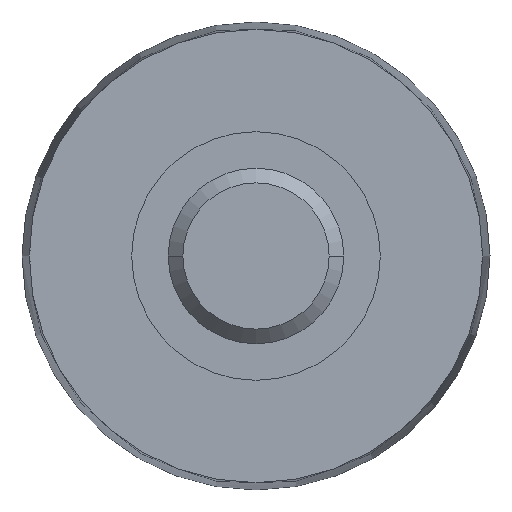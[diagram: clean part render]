
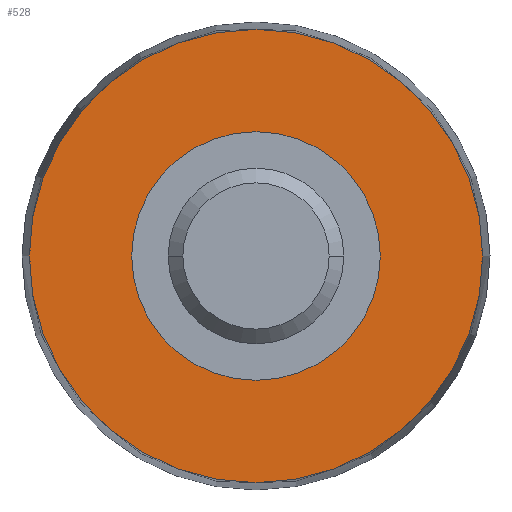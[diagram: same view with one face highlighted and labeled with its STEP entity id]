
A CAD part, left-side view. The second image highlights one B-rep face of the part: STEP entity #528.
In plain terms, the highlighted planar face has unit normal (-1, 0, 0).
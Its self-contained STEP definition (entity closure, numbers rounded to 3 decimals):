
#1 = VERTEX_POINT ( 'NONE', #526 ) ;
#12 = CARTESIAN_POINT ( 'NONE',  ( -70., 15.5, 0. ) ) ;
#45 = FACE_OUTER_BOUND ( 'NONE', #610, .T. ) ;
#87 = CARTESIAN_POINT ( 'NONE',  ( -70., 0., 0. ) ) ;
#101 = VERTEX_POINT ( 'NONE', #224 ) ;
#121 = VERTEX_POINT ( 'NONE', #285 ) ;
#141 = DIRECTION ( 'NONE',  ( 0., 1., 0. ) ) ;
#160 = DIRECTION ( 'NONE',  ( 0., 1., 0. ) ) ;
#192 = DIRECTION ( 'NONE',  ( 1., 0., 0. ) ) ;
#198 = EDGE_CURVE ( 'NONE', #101, #476, #522, .T. ) ;
#208 = EDGE_CURVE ( 'NONE', #1, #121, #494, .T. ) ;
#215 = EDGE_LOOP ( 'NONE', ( #554, #592 ) ) ;
#224 = CARTESIAN_POINT ( 'NONE',  ( -70., -15.5, 0. ) ) ;
#239 = DIRECTION ( 'NONE',  ( 1., 0., 0. ) ) ;
#251 = DIRECTION ( 'NONE',  ( 1., 0., 0. ) ) ;
#259 = AXIS2_PLACEMENT_3D ( 'NONE', #87, #239, #497 ) ;
#284 = EDGE_CURVE ( 'NONE', #476, #101, #316, .T. ) ;
#285 = CARTESIAN_POINT ( 'NONE',  ( -70., 8.5, 0. ) ) ;
#287 = CIRCLE ( 'NONE', #597, 8.5 ) ;
#315 = CARTESIAN_POINT ( 'NONE',  ( -70., 0., 0. ) ) ;
#316 = CIRCLE ( 'NONE', #356, 15.5 ) ;
#355 = DIRECTION ( 'NONE',  ( 1., 0., 0. ) ) ;
#356 = AXIS2_PLACEMENT_3D ( 'NONE', #659, #251, #566 ) ;
#378 = FACE_BOUND ( 'NONE', #215, .T. ) ;
#399 = AXIS2_PLACEMENT_3D ( 'NONE', #574, #466, #616 ) ;
#413 = PLANE ( 'NONE',  #399 ) ;
#451 = CARTESIAN_POINT ( 'NONE',  ( -70., 0., 0. ) ) ;
#466 = DIRECTION ( 'NONE',  ( -1., 0., 0. ) ) ;
#476 = VERTEX_POINT ( 'NONE', #12 ) ;
#494 = CIRCLE ( 'NONE', #609, 8.5 ) ;
#497 = DIRECTION ( 'NONE',  ( 0., 1., 0. ) ) ;
#498 = EDGE_CURVE ( 'NONE', #121, #1, #287, .T. ) ;
#522 = CIRCLE ( 'NONE', #259, 15.5 ) ;
#526 = CARTESIAN_POINT ( 'NONE',  ( -70., -8.5, 0. ) ) ;
#528 = ADVANCED_FACE ( 'NONE', ( #378, #45 ), #413, .T. ) ;
#542 = ORIENTED_EDGE ( 'NONE', *, *, #198, .F. ) ;
#554 = ORIENTED_EDGE ( 'NONE', *, *, #498, .T. ) ;
#566 = DIRECTION ( 'NONE',  ( 0., 1., 0. ) ) ;
#574 = CARTESIAN_POINT ( 'NONE',  ( -70., 8.5, 0. ) ) ;
#592 = ORIENTED_EDGE ( 'NONE', *, *, #208, .T. ) ;
#597 = AXIS2_PLACEMENT_3D ( 'NONE', #315, #355, #160 ) ;
#609 = AXIS2_PLACEMENT_3D ( 'NONE', #451, #192, #141 ) ;
#610 = EDGE_LOOP ( 'NONE', ( #654, #542 ) ) ;
#616 = DIRECTION ( 'NONE',  ( 0., -1., 0. ) ) ;
#654 = ORIENTED_EDGE ( 'NONE', *, *, #284, .F. ) ;
#659 = CARTESIAN_POINT ( 'NONE',  ( -70., 0., 0. ) ) ;
